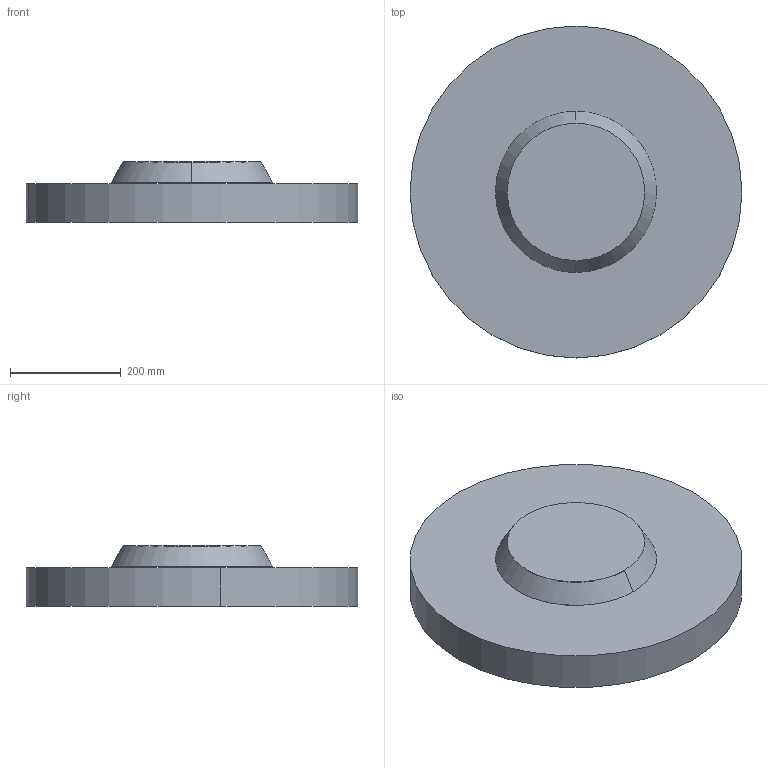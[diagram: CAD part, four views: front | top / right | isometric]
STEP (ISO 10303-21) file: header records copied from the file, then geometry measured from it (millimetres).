
FILE_DESCRIPTION(('Creo Elements/Direct Modeling STEP Export'),'2;1');
FILE_NAME('DISC LED 600 direkt.stp','2016-03-03T15:47:23',(''),(''),'Creo Elements/Direct Modeling STEP processor for AP214 (Solid Model)','Creo Elements/Direct Modeling 18.1A 09-Jun-2012 (C) Parametric Technology GmbH','');
FILE_SCHEMA(('AUTOMOTIVE_DESIGN { 1 0 10303 214 1 1 1 1 }'));
Length unit declared in the file: millimetre
Products named in the file (3): Leuchtendeckel_Aluminium_eloxiert_D292_x_38_mm; Leuchtenkörper_DISC_600; DISC_LED_600
Assembly tree (2 placements, depth 2):
  DISC_LED_600
    Leuchtenkörper_DISC_600
    Leuchtendeckel_Aluminium_eloxiert_D292_x_38_mm
Bounding box: 600 x 600 x 109.8 mm (x, y, z)
Volume: 19959170.9 mm3; surface area: 866394.3 mm2
Topology: 2 solids, 2 shells, 12 faces, 26 edges, 18 vertices
Faces by surface type: cone 6, plane 4, cylinder 2
Entity records: 359 total; most frequent: ORIENTED_EDGE 52, DIRECTION 50, CARTESIAN_POINT 47, EDGE_CURVE 26, AXIS2_PLACEMENT_3D 21, VERTEX_POINT 18, EDGE_LOOP 12, FACE_OUTER_BOUND 12
